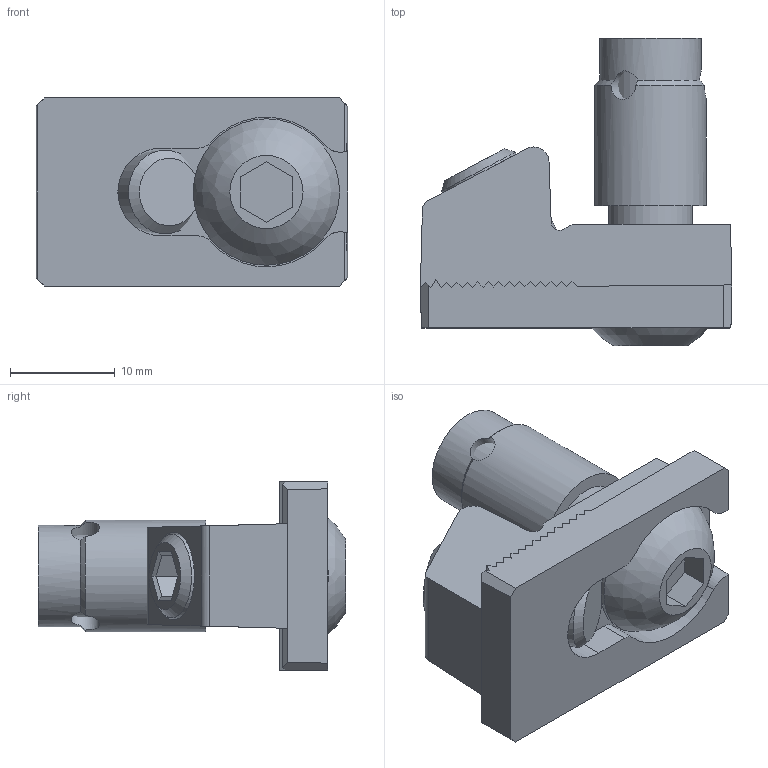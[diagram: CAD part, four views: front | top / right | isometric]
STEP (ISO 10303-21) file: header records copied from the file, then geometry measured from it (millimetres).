
FILE_DESCRIPTION(/* description */ ('STEP AP203'),/* implementation_level */ '2;1');
FILE_NAME(/* name */ '099J10S12',/* time_stamp */ '2026-05-11T13:59:20+02:00',/* author */ ('License CC BY-ND 4.0'),/* organization */ ('CADENAS'),/* preprocessor_version */ 'ST-DEVELOPER v20',/* originating_system */ 'PARTsolutions',/* authorisation */ ' ');
FILE_SCHEMA (('CONFIG_CONTROL_DESIGN'));
Length unit declared in the file: millimetre
Products named in the file (5): 099J10S12; 099J10S12-1; 099J10S12-4; 099J10S12-2; 099J10S12-3
Assembly tree (4 placements, depth 2):
  099J10S12
    099J10S12-1
    099J10S12-4
    099J10S12-2
    099J10S12-3
Bounding box: 29.77 x 29.4 x 18 mm (x, y, z)
Volume: 6368 mm3; surface area: 5258.5 mm2
Topology: 4 solids, 4 shells, 154 faces, 500 edges, 329 vertices
Faces by surface type: plane 118, cylinder 23, cone 12, sphere 1
Full cylindrical faces by diameter (mm): 2.74 x3, 6.8 x2, 8 x2, 9.7 x1, 10.7 x1, 14 x1
Entity records: 5514 total; most frequent: CARTESIAN_POINT 1096, ORIENTED_EDGE 946, DIRECTION 825, EDGE_CURVE 473, LINE 375, VECTOR 375, VERTEX_POINT 322, AXIS2_PLACEMENT_3D 225
